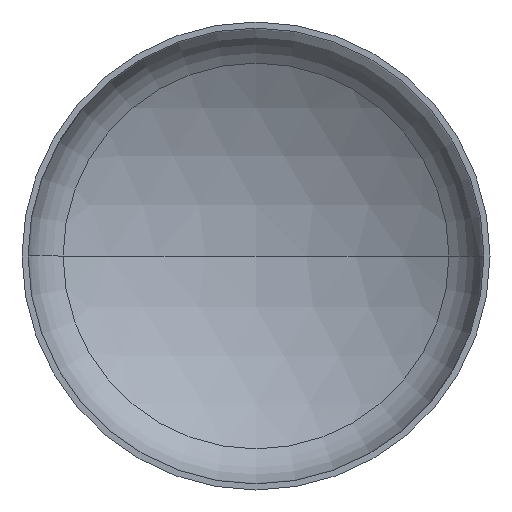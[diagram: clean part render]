
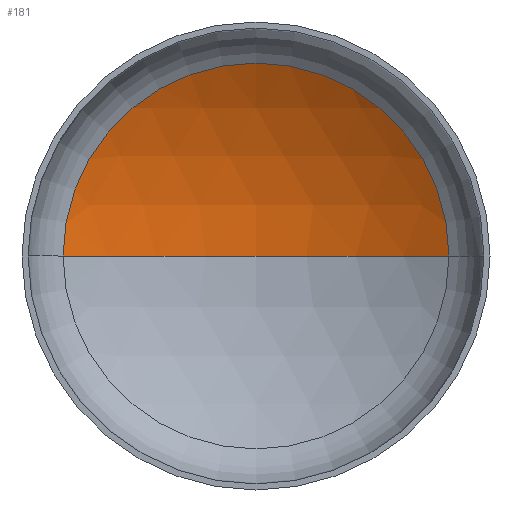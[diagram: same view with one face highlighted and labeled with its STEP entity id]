
A CAD part, front view. The second image highlights one B-rep face of the part: STEP entity #181.
In plain terms, the highlighted spherical face has radius 2720 mm.
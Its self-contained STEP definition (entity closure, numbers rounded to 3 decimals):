
#10 = AXIS2_PLACEMENT_3D ( 'NONE', #184, #305, #307 ) ;
#14 = AXIS2_PLACEMENT_3D ( 'NONE', #188, #365, #222 ) ;
#15 = EDGE_LOOP ( 'NONE', ( #110, #131, #93 ) ) ;
#17 = AXIS2_PLACEMENT_3D ( 'NONE', #153, #155, #165 ) ;
#18 = VERTEX_POINT ( 'NONE', #273 ) ;
#23 = DIRECTION ( 'NONE',  ( -1., 0., 0. ) ) ;
#31 = VERTEX_POINT ( 'NONE', #276 ) ;
#52 = AXIS2_PLACEMENT_3D ( 'NONE', #399, #187, #23 ) ;
#93 = ORIENTED_EDGE ( 'NONE', *, *, #345, .T. ) ;
#110 = ORIENTED_EDGE ( 'NONE', *, *, #356, .F. ) ;
#116 = CIRCLE ( 'NONE', #10, 2720. ) ;
#127 = VERTEX_POINT ( 'NONE', #193 ) ;
#131 = ORIENTED_EDGE ( 'NONE', *, *, #348, .T. ) ;
#133 = CIRCLE ( 'NONE', #14, 2720. ) ;
#153 = CARTESIAN_POINT ( 'NONE',  ( 0., 589.942, 0. ) ) ;
#155 = DIRECTION ( 'NONE',  ( 0., -1., 0. ) ) ;
#165 = DIRECTION ( 'NONE',  ( 1., 0., 0. ) ) ;
#181 = ADVANCED_FACE ( 'NONE', ( #251 ), #368, .F. ) ;
#184 = CARTESIAN_POINT ( 'NONE',  ( 0., -1741.187, 0. ) ) ;
#187 = DIRECTION ( 'NONE',  ( 0., 0., -1. ) ) ;
#188 = CARTESIAN_POINT ( 'NONE',  ( 0., -1741.187, 0. ) ) ;
#193 = CARTESIAN_POINT ( 'NONE',  ( 1401.513, 589.942, 0. ) ) ;
#222 = DIRECTION ( 'NONE',  ( -1., 0., 0. ) ) ;
#251 = FACE_OUTER_BOUND ( 'NONE', #15, .T. ) ;
#272 = CIRCLE ( 'NONE', #17, 1401.513 ) ;
#273 = CARTESIAN_POINT ( 'NONE',  ( -1401.513, 589.942, 0. ) ) ;
#276 = CARTESIAN_POINT ( 'NONE',  ( 0., 978.813, 0. ) ) ;
#305 = DIRECTION ( 'NONE',  ( 0., 0., 1. ) ) ;
#307 = DIRECTION ( 'NONE',  ( 1., 0., 0. ) ) ;
#345 = EDGE_CURVE ( 'NONE', #127, #18, #272, .T. ) ;
#348 = EDGE_CURVE ( 'NONE', #31, #127, #133, .T. ) ;
#356 = EDGE_CURVE ( 'NONE', #31, #18, #116, .T. ) ;
#365 = DIRECTION ( 'NONE',  ( 0., 0., -1. ) ) ;
#368 = SPHERICAL_SURFACE ( 'NONE', #52, 2720. ) ;
#399 = CARTESIAN_POINT ( 'NONE',  ( 0., -1741.187, 0. ) ) ;
